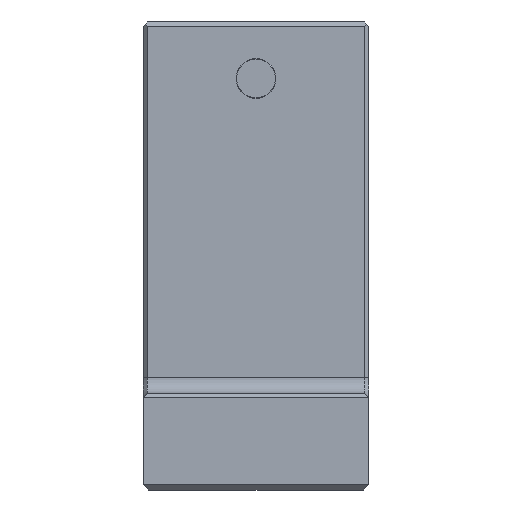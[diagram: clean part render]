
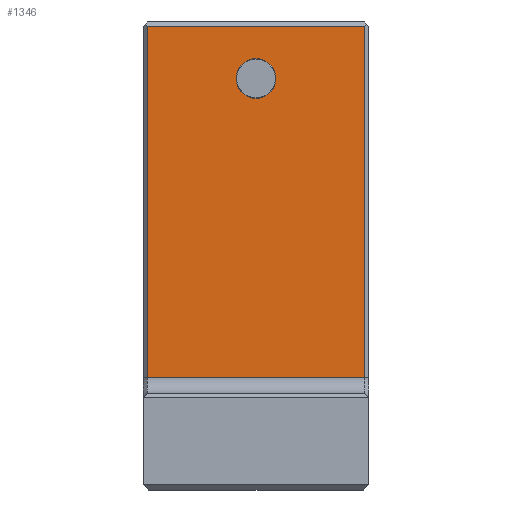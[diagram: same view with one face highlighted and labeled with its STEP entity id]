
A CAD part, front view. The second image highlights one B-rep face of the part: STEP entity #1346.
In plain terms, the highlighted planar face has unit normal (0, -1, 0).
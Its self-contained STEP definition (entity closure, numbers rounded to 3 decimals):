
#1150=CARTESIAN_POINT('',(0.5,-22.0,-16.0));
#1151=VERTEX_POINT('',#1150);
#1177=CARTESIAN_POINT('',(27.5,-22.0,-16.0));
#1178=VERTEX_POINT('',#1177);
#1218=CARTESIAN_POINT('',(0.5,-22.0,27.5));
#1219=VERTEX_POINT('',#1218);
#1220=CARTESIAN_POINT('',(0.5,-22.0,-16.0));
#1221=DIRECTION('',(0.0,0.0,1.0));
#1222=VECTOR('',#1221,43.5);
#1223=LINE('',#1220,#1222);
#1224=EDGE_CURVE('',#1151,#1219,#1223,.T.);
#1242=CARTESIAN_POINT('',(27.5,-22.0,27.5));
#1243=VERTEX_POINT('',#1242);
#1250=CARTESIAN_POINT('',(27.5,-22.0,27.5));
#1251=DIRECTION('',(0.0,0.0,-1.0));
#1252=VECTOR('',#1251,43.5);
#1253=LINE('',#1250,#1252);
#1254=EDGE_CURVE('',#1243,#1178,#1253,.T.);
#1310=CARTESIAN_POINT('',(27.5,-22.0,-16.0));
#1311=DIRECTION('',(-1.0,0.0,0.0));
#1312=VECTOR('',#1311,27.);
#1313=LINE('',#1310,#1312);
#1314=EDGE_CURVE('',#1178,#1151,#1313,.T.);
#1319=CARTESIAN_POINT('',(0.0,-22.0,-18.0));
#1320=DIRECTION('',(0.0,-1.0,0.0));
#1321=DIRECTION('',(0.0,0.0,-1.0));
#1322=AXIS2_PLACEMENT_3D('',#1319,#1320,#1321);
#1323=PLANE('',#1322);
#1324=ORIENTED_EDGE('',*,*,#1224,.F.);
#1325=ORIENTED_EDGE('',*,*,#1314,.F.);
#1326=ORIENTED_EDGE('',*,*,#1254,.F.);
#1327=CARTESIAN_POINT('',(0.5,-22.0,27.5));
#1328=DIRECTION('',(1.0,0.0,0.0));
#1329=VECTOR('',#1328,27.);
#1330=LINE('',#1327,#1329);
#1331=EDGE_CURVE('',#1219,#1243,#1330,.T.);
#1332=ORIENTED_EDGE('',*,*,#1331,.F.);
#1333=EDGE_LOOP('',(#1324,#1325,#1326,#1332));
#1334=FACE_OUTER_BOUND('',#1333,.T.);
#1335=CARTESIAN_POINT('',(16.458,-22.,21.));
#1336=VERTEX_POINT('',#1335);
#1337=CARTESIAN_POINT('',(14.,-22.,21.));
#1338=DIRECTION('',(0.0,1.0,0.0));
#1339=DIRECTION('',(-1.0,0.0,0.0));
#1340=AXIS2_PLACEMENT_3D('',#1337,#1338,#1339);
#1341=CIRCLE('',#1340,2.459);
#1342=EDGE_CURVE('',#1336,#1336,#1341,.T.);
#1343=ORIENTED_EDGE('',*,*,#1342,.T.);
#1344=EDGE_LOOP('',(#1343));
#1345=FACE_BOUND('',#1344,.T.);
#1346=ADVANCED_FACE('',(#1334,#1345),#1323,.T.);
